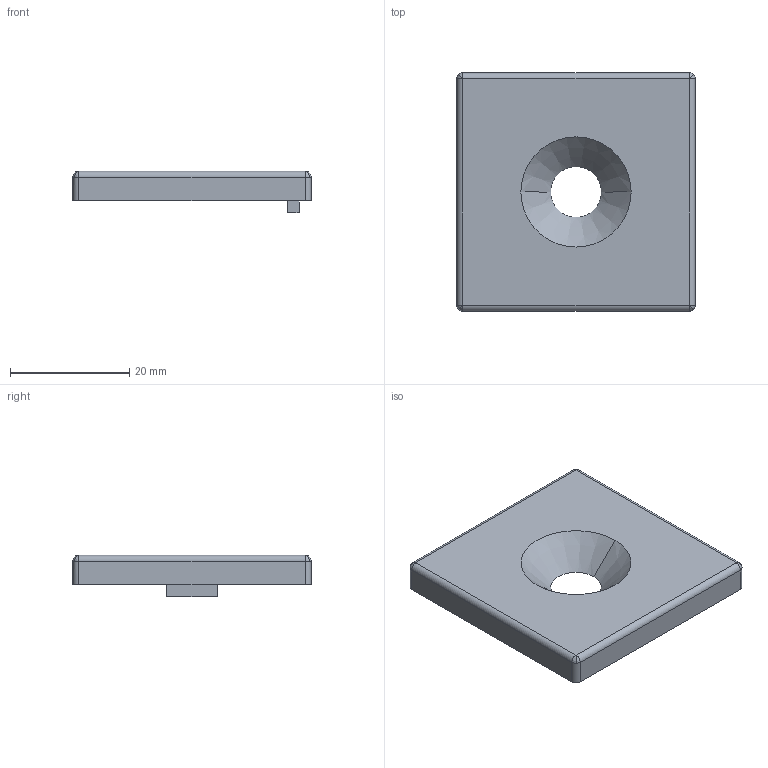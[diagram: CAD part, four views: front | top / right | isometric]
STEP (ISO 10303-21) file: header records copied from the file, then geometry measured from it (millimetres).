
FILE_DESCRIPTION (( 'STEP AP203' ), '1' );
FILE_NAME ('DEC4040A.STEP', '2022-06-24T02:16:53', ( '' ), ( '' ), 'SwSTEP 2.0', 'SolidWorks 2017', '' );
FILE_SCHEMA (( 'CONFIG_CONTROL_DESIGN' ));
Length unit declared in the file: millimetre
Products named in the file (1): DEC4040A
Bounding box: 40 x 40 x 7 mm (x, y, z)
Volume: 4110.3 mm3; surface area: 4448.2 mm2
Topology: 1 solids, 1 shells, 38 faces, 92 edges, 50 vertices
Faces by surface type: plane 18, bspline 8, cylinder 8, cone 4
Entity records: 1205 total; most frequent: CARTESIAN_POINT 293, DIRECTION 178, ORIENTED_EDGE 168, EDGE_CURVE 84, AXIS2_PLACEMENT_3D 63, LINE 52, VECTOR 52, VERTEX_POINT 50
